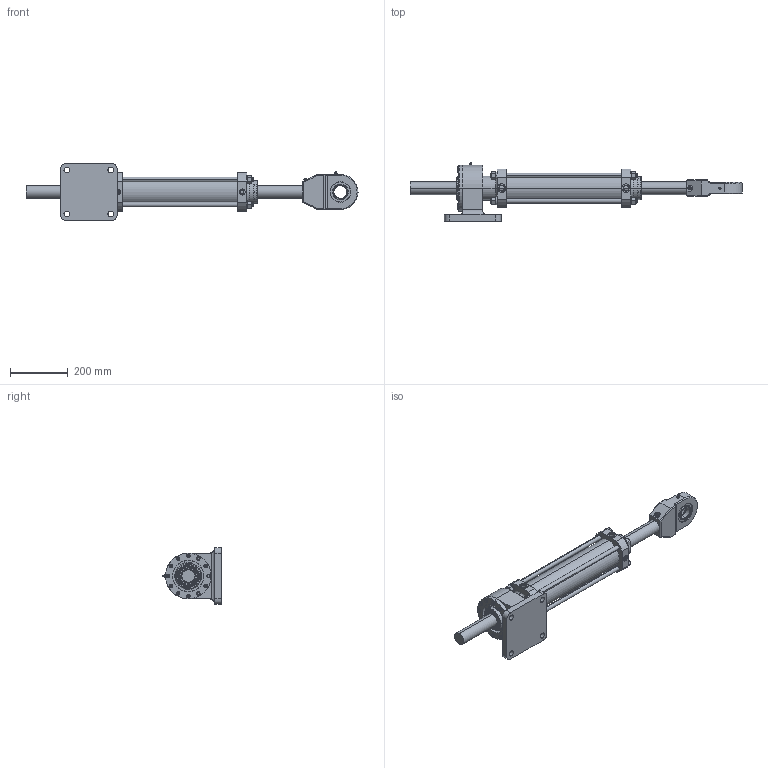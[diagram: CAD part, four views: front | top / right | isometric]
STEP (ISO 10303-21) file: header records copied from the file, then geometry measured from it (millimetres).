
FILE_DESCRIPTION (( 'STEP AP214' ), '1' );
FILE_NAME ('7800-0048_revA.STEP', '2019-08-23T18:24:48', ( '' ), ( '' ), 'SwSTEP 2.0', 'SolidWorks 2019', '' );
FILE_SCHEMA (( 'AUTOMOTIVE_DESIGN' ));
Length unit declared in the file: inch
Products named in the file (1): 7800-0048_revA
Bounding box: 1150.95 x 202.62 x 196.85 mm (x, y, z)
Surface area: 804779.9 mm2 (no closed solid volume)
Topology: 0 solids, 132 shells, 1038 faces, 3312 edges, 2349 vertices
Faces by surface type: plane 450, cylinder 286, cone 170, torus 70, bspline 54, sphere 8
Entity records: 58787 total; most frequent: CARTESIAN_POINT 17584, DIRECTION 5635, ORIENTED_EDGE 5021, EDGE_CURVE 3304, VERTEX_POINT 2349, AXIS2_PLACEMENT_3D 2156, VECTOR 1323, LINE 1323
